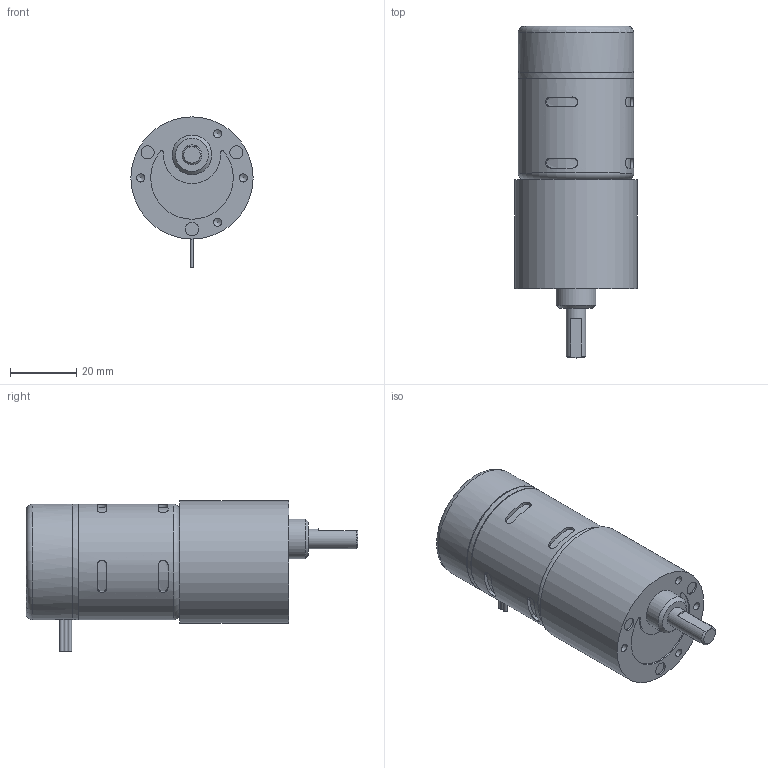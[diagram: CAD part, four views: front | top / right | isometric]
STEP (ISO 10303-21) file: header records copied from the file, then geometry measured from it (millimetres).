
FILE_DESCRIPTION((''),'2;1');
FILE_NAME('C:\Documents and Settings\SSEGAWA\デスクトップ\TP-3546B-KM-6.STP','2013-07-30T15:54:02',('SSEGAWA'),(''),'Autodesk Inventor 2010','Autodesk Inventor 2010','');
FILE_SCHEMA(('CONFIG_CONTROL_DESIGN'));
Length unit declared in the file: millimetre
Products named in the file (1): tp_3546bd_km_6_Shrinkwrap_1
Bounding box: 37 x 100.5 x 45.5 mm (x, y, z)
Volume: 80622.6 mm3; surface area: 12463.5 mm2
Topology: 1 solids, 5 shells, 106 faces, 237 edges, 153 vertices
Faces by surface type: plane 43, cylinder 43, bspline 16, torus 2, cone 2
Full cylindrical faces by diameter (mm): 1.2 x2, 4 x3, 6 x1, 12 x1, 34.6 x1, 35 x3, 37 x1
Entity records: 3466 total; most frequent: CARTESIAN_POINT 1264, DIRECTION 429, ORIENTED_EDGE 376, EDGE_CURVE 188, AXIS2_PLACEMENT_3D 184, EDGE_LOOP 149, VERTEX_POINT 133, STYLED_ITEM 107
